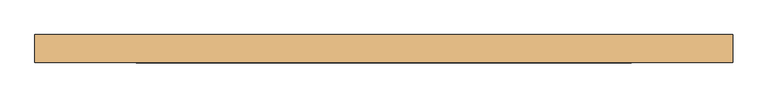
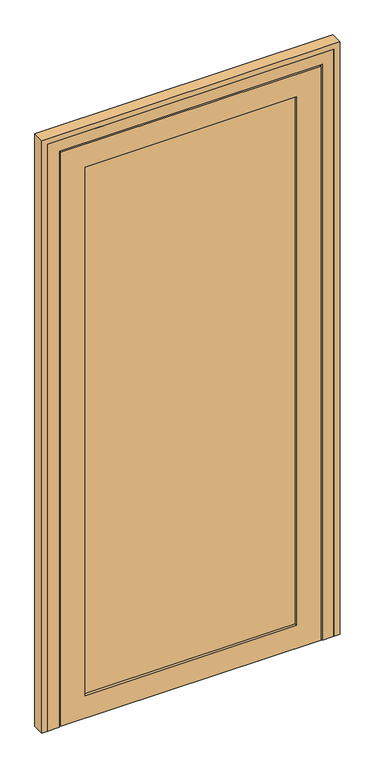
"""IFC4 building model written with IfcOpenShell, lengths in millimetres: door geometry, Дверь.Alumark_однопольная_S40 : 960х2080 Правая Открывание внутрь (СП 24мм Обычный)."""

from ifc_helpers import new_model, si_unit, frame, origin, place, context, project, spatial, polyline, outline, extrude, faceted_brep, source, transform, mapped, element, save


def door_d2b9fd3c(model_context):
    return source(origin(), model_context, "Body", "SolidModel", [
        extrude(outline(polyline([(498.0, 91.0), (498.0, 69.5), (-248.0, 69.5), (-248.0, 91.0), (498.0, 91.0)])), frame((0.0, 0.0, 64.0), z_axis=(0.0, 0.0, 1.0), x_axis=(1.0, 0.0, 0.0)), (0.0, 0.0, 1.0), 1909.0),
        faceted_brep([(-311.0, 66.5, 1.0), (-299.5, 66.5, 1.0), (-299.5, 93.5, 1.0), (-288.0, 93.5, 1.0), (-288.0, 66.5, 1.0), (538.0, 66.5, 1.0), (538.0, 93.5, 1.0), (549.5, 93.5, 1.0), (549.5, 66.5, 1.0), (561.0, 66.5, 1.0), (561.0, 60.0, 1.0), (-311.0, 60.0, 1.0), (-311.0, 60.0, 2036.0), (-311.0, 66.5, 2036.0), (561.0, 60.0, 2036.0), (-230.0, 60.0, 1955.0), (480.0, 60.0, 1955.0), (480.0, 60.0, 82.0), (-230.0, 60.0, 82.0), (-230.0, 69.5, 82.0), (-230.0, 69.5, 1955.0), (498.0, 69.5, 1973.0), (498.0, 69.5, 64.0), (-248.0, 69.5, 64.0), (-248.0, 69.5, 1973.0), (480.0, 69.5, 82.0), (480.0, 69.5, 1955.0), (-248.0, 91.0, 64.0), (-248.0, 91.0, 1973.0), (498.0, 91.0, 64.0), (498.0, 91.0, 1973.0), (-230.0, 91.0, 1955.0), (480.0, 91.0, 1955.0), (480.0, 91.0, 82.0), (-230.0, 91.0, 82.0), (-230.0, 100.0, 82.0), (-230.0, 100.0, 1955.0), (533.0, 100.0, 2008.0), (533.0, 100.0, 29.0), (-283.0, 100.0, 29.0), (-283.0, 100.0, 2008.0), (480.0, 100.0, 82.0), (480.0, 100.0, 1955.0), (-283.0, 93.5, 29.0), (-283.0, 93.5, 2008.0), (538.0, 93.5, 12.5), (-288.0, 93.5, 12.5), (-299.5, 93.5, 2024.5), (549.5, 93.5, 2024.5), (533.0, 93.5, 29.0), (533.0, 93.5, 2008.0), (-299.5, 66.5, 2024.5), (561.0, 66.5, 2036.0), (549.5, 66.5, 2024.5), (538.0, 66.5, 12.5), (-288.0, 66.5, 12.5)], [[[0, 1, 2, 3, 4, 5, 6, 7, 8, 9, 10, 11]], [[11, 12, 13, 0]], [[10, 14, 12, 11], [15, 16, 17, 18]], [[15, 18, 19, 20]], [[21, 22, 23, 24], [20, 19, 25, 26]], [[23, 27, 28, 24]], [[28, 27, 29, 30], [31, 32, 33, 34]], [[31, 34, 35, 36]], [[37, 38, 39, 40], [36, 35, 41, 42]], [[39, 43, 44, 40]], [[45, 46, 3, 2, 47, 48, 7, 6], [44, 43, 49, 50]], [[1, 51, 47, 2]], [[0, 13, 52, 9, 8, 53, 51, 1]], [[12, 14, 52, 13]], [[15, 20, 26, 16]], [[24, 28, 30, 21]], [[31, 36, 42, 32]], [[40, 44, 50, 37]], [[47, 51, 53, 48]], [[10, 9, 52, 14]], [[26, 25, 17, 16]], [[29, 22, 21, 30]], [[42, 41, 33, 32]], [[49, 38, 37, 50]], [[48, 53, 8, 7]], [[19, 18, 17, 25]], [[22, 29, 27, 23]], [[35, 34, 33, 41]], [[45, 6, 5, 54]], [[55, 4, 3, 46]], [[54, 55, 46, 45]], [[43, 39, 38, 49]], [[4, 55, 54, 5]]]),
        faceted_brep([(-355.0, 60.0, 0.0), (-355.0, 100.0, 0.0), (-288.0, 100.0, 0.0), (-288.0, 93.5, 0.0), (538.0, 93.5, 0.0), (538.0, 100.0, 0.0), (605.0, 100.0, 0.0), (605.0, 60.0, 0.0), (566.0, 60.0, 0.0), (566.0, 66.5, 0.0), (-316.0, 66.5, 0.0), (-316.0, 60.0, 0.0), (-316.0, 60.0, 2041.0), (566.0, 60.0, 2041.0), (605.0, 60.0, 2080.0), (-355.0, 60.0, 2080.0), (-316.0, 66.5, 2041.0), (566.0, 66.5, 2041.0), (-299.5, 66.5, 2024.5), (549.5, 66.5, 2024.5), (549.5, 66.5, 12.5), (-299.5, 66.5, 12.5), (-299.5, 93.5, 12.5), (-299.5, 93.5, 2024.5), (-288.0, 93.5, 12.5), (-288.0, 93.5, 2013.0), (538.0, 93.5, 2013.0), (538.0, 93.5, 12.5), (549.5, 93.5, 12.5), (549.5, 93.5, 2024.5), (-288.0, 100.0, 2013.0), (-355.0, 100.0, 2080.0), (605.0, 100.0, 2080.0), (538.0, 100.0, 2013.0)], [[[0, 1, 2, 3, 4, 5, 6, 7, 8, 9, 10, 11]], [[11, 12, 13, 8, 7, 14, 15, 0]], [[16, 12, 11, 10]], [[9, 17, 16, 10], [18, 19, 20, 21]], [[18, 21, 22, 23]], [[23, 22, 24, 25, 26, 27, 28, 29]], [[2, 30, 25, 24, 3]], [[1, 31, 32, 6, 5, 33, 30, 2]], [[15, 31, 1, 0]], [[12, 16, 17, 13]], [[18, 23, 29, 19]], [[25, 30, 33, 26]], [[14, 32, 31, 15]], [[13, 17, 9, 8]], [[29, 28, 20, 19]], [[5, 4, 27, 26, 33]], [[6, 32, 14, 7]], [[20, 28, 27, 24, 22, 21]], [[3, 24, 27, 4]]]),
        extrude(outline(polyline([(2100.0, -375.0), (0.0, -375.0), (0.0, -355.0), (2080.0, -355.0), (2080.0, 605.0), (0.0, 605.0), (0.0, 625.0), (2100.0, 625.0), (2100.0, -375.0)])), frame((0.0, 60.0, 0.0), z_axis=(0.0, 1.0, 0.0), x_axis=(0.0, 0.0, 1.0)), (0.0, 0.0, 1.0), 40.0),
    ])


if __name__ == "__main__":
    model = new_model("IFC4")
    model_context = context("Model", 3, world=origin())
    ifc_project = project(units=[si_unit("LENGTHUNIT", "METRE", prefix="MILLI")], contexts=[model_context])
    site = spatial("IfcSite", under=ifc_project)
    building = spatial("IfcBuilding", under=site)
    placement = place(None, origin())
    door_shape = door_d2b9fd3c(model_context)
    element("IfcDoor", 1, ObjectType="Дверь.Alumark_однопольная_S40 : 960х2080 Правая Открывание внутрь (СП 24мм Обычный)", at=placement, inside=building, context=model_context, shape_type="MappedRepresentation", body=[
        mapped(door_shape, transform((0.0, 0.0, 0.0), x_axis=(1.0, 0.0, 0.0), y_axis=(0.0, 1.0, 0.0), z_axis=(0.0, 0.0, 1.0))),
    ])
    save(model, "model.ifc")
